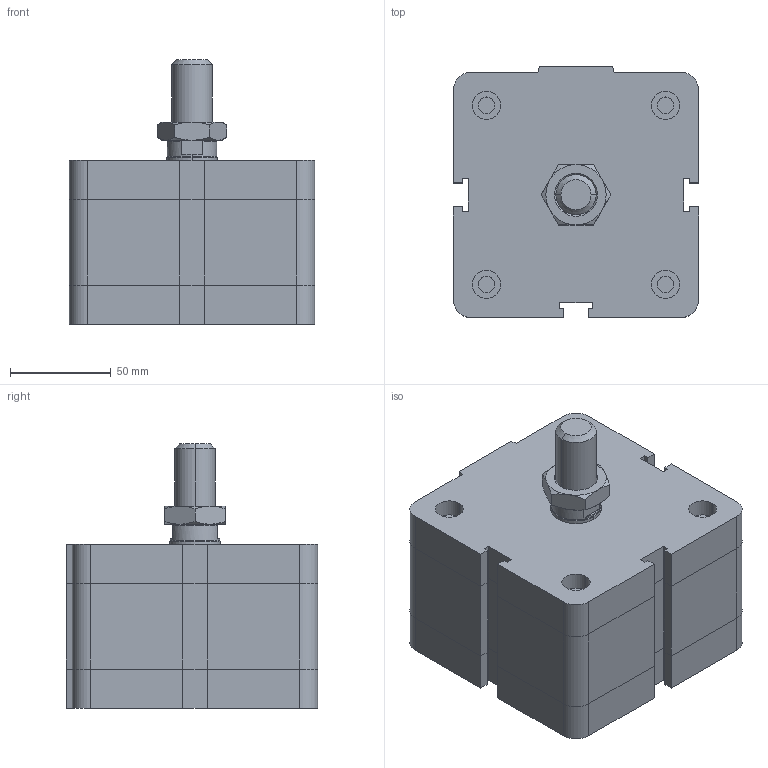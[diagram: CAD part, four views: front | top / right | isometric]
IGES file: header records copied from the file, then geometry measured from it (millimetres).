
Global section: file name: No Iges File Name specified; native system: Autodesk Inventor 2009; preprocessor: AutoDesk Inventor Iges Exporter R2009; author: rivolro1; date: 20081219.160911; units: millimetre
Bounding box: 122 x 125 x 131.5 mm (x, y, z)
Volume: 1193521.6 mm3; surface area: 92785.1 mm2
Topology: 3 solids, 3 shells, 216 faces, 472 edges, 282 vertices
Faces by surface type: plane 121, bspline 37, cylinder 20, cone 20, revolution 18
